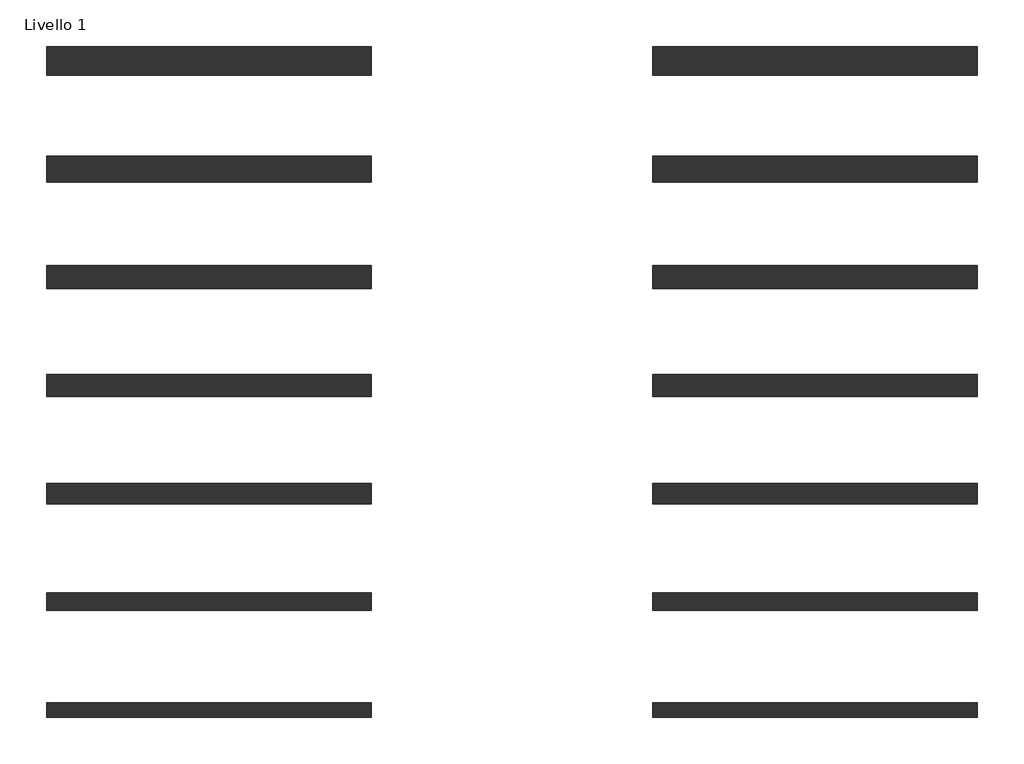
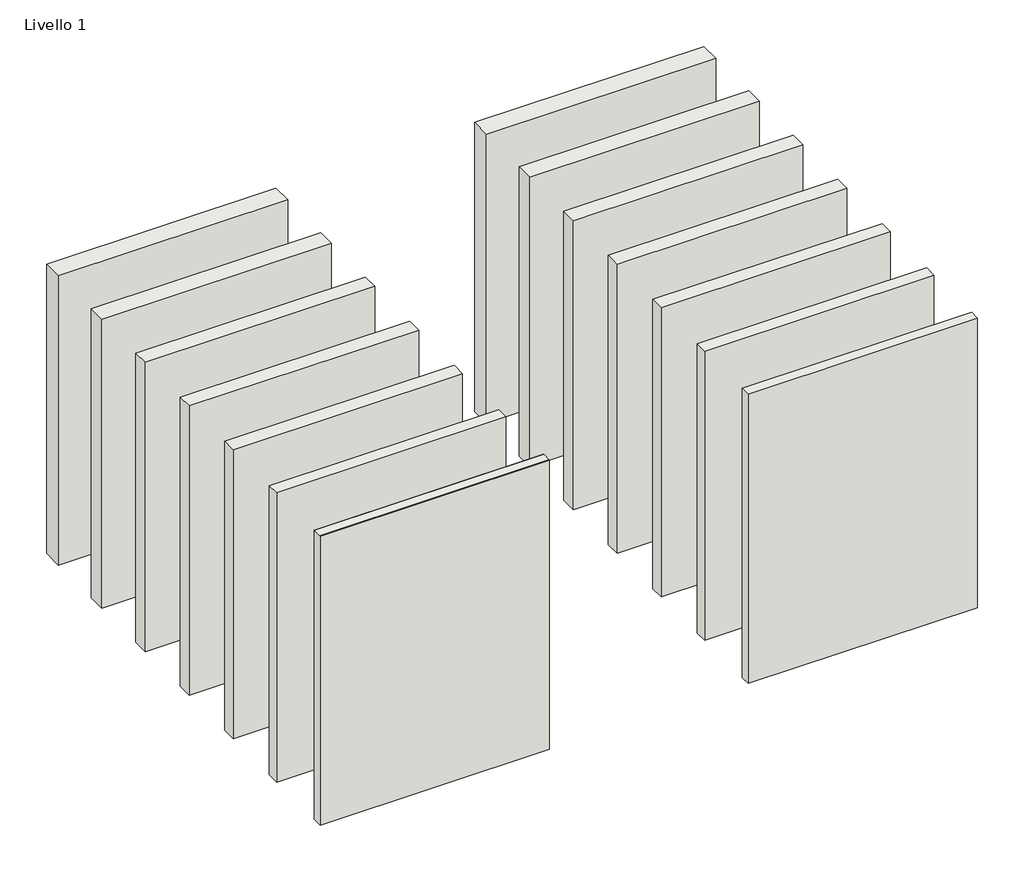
# One storey: 14 walls.
"""IFC4 building model written with IfcOpenShell, lengths in millimetres."""

from ifc_helpers import new_model, si_unit, frame, origin, origin_with_axes, place, context, project, spatial, polyline, outline, extrude, element, save

model = new_model("IFC4")

# Units and contexts
model_context = context("Model", 3, world=origin())
ifc_project = project(units=[si_unit("LENGTHUNIT", "METRE", prefix="MILLI")], contexts=[model_context])

# Site, building, storey
site = spatial("IfcSite", under=ifc_project)
building = spatial("IfcBuilding", under=site)
storey = spatial("IfcBuildingStorey", under=building, Name="Livello 1", Elevation=0.0)

# Walls
placement = place(None, origin())
element("IfcWall", 1, ObjectType="Sistema GASBETON Evolution+ IDRO sp. 529 mm per tamponatura", at=placement, inside=storey, context=model_context, shape_type="SweptSolid", body=[
    extrude(outline(polyline([(-8530.3988811, 8911.2412499), (-2530.3988811, 8911.2412499), (-2530.3988811, 8382.2412499), (-8530.3988811, 8382.2412499), (-8530.3988811, 8911.2412499)])), origin_with_axes(), (0.0, 0.0, 1.0), 8000.0),
])
element("IfcWall", 2, ObjectType="Sistema GASBETON Evolution sp. 479 mm per tamponatura", at=placement, inside=storey, context=model_context, shape_type="SweptSolid", body=[
    extrude(outline(polyline([(-8530.3988811, 6886.2412499), (-2530.3988811, 6886.2412499), (-2530.3988811, 6407.2412499), (-8530.3988811, 6407.2412499), (-8530.3988811, 6886.2412499)])), origin_with_axes(), (0.0, 0.0, 1.0), 8000.0),
])
element("IfcWall", 3, ObjectType="Sistema GASBETON Evolution sp. 429 mm per tamponatura", at=placement, inside=storey, context=model_context, shape_type="SweptSolid", body=[
    extrude(outline(polyline([(-8530.3988811, 4861.2412499), (-2530.3988811, 4861.2412499), (-2530.3988811, 4432.2412499), (-8530.3988811, 4432.2412499), (-8530.3988811, 4861.2412499)])), origin_with_axes(), (0.0, 0.0, 1.0), 8000.0),
])
element("IfcWall", 4, ObjectType="Sistema GASBETON Evolution sp. 404 mm per tamponatura", at=placement, inside=storey, context=model_context, shape_type="SweptSolid", body=[
    extrude(outline(polyline([(-8530.3988811, 2848.7412499), (-2530.3988811, 2848.7412499), (-2530.3988811, 2444.7412499), (-8530.3988811, 2444.7412499), (-8530.3988811, 2848.7412499)])), origin_with_axes(), (0.0, 0.0, 1.0), 8000.0),
])
element("IfcWall", 5, ObjectType="Sistema GASBETON Evolution sp. 379 mm per tamponatura", at=placement, inside=storey, context=model_context, shape_type="SweptSolid", body=[
    extrude(outline(polyline([(-8530.3988811, 836.2412499), (-2530.3988811, 836.2412499), (-2530.3988811, 457.2412499), (-8530.3988811, 457.2412499), (-8530.3988811, 836.2412499)])), origin_with_axes(), (0.0, 0.0, 1.0), 8000.0),
])
element("IfcWall", 6, ObjectType="Sistema GASBETON Evolution sp. 329 mm per tamponatura", at=placement, inside=storey, context=model_context, shape_type="SweptSolid", body=[
    extrude(outline(polyline([(-8530.3988811, -1188.7587501), (-2530.3988811, -1188.7587501), (-2530.3988811, -1517.7587501), (-8530.3988811, -1517.7587501), (-8530.3988811, -1188.7587501)])), origin_with_axes(), (0.0, 0.0, 1.0), 8000.0),
])
element("IfcWall", 7, ObjectType="Sistema GASBETON Evolution sp. 269 mm per tamponatura", at=placement, inside=storey, context=model_context, shape_type="SweptSolid", body=[
    extrude(outline(polyline([(-3218.7587501, 8000.0), (-3218.7587501, 0.0), (-3225.7587501, 0.0), (-3465.7587501, 0.0), (-3487.7587501, 0.0), (-3487.7587501, 8000.0), (-3465.7587501, 8000.0), (-3225.7587501, 8000.0), (-3218.7587501, 8000.0)])), frame((-8530.3988811, 0.0, 0.0), z_axis=(1.0, 0.0, 0.0), x_axis=(0.0, 1.0, 0.0)), (0.0, 0.0, 1.0), 6000.0),
])
element("IfcWall", 8, ObjectType="Sistema GASBETON Evolution+ IDRO sp. 269 mm per tamponatura", at=placement, inside=storey, context=model_context, shape_type="SweptSolid", body=[
    extrude(outline(polyline([(8669.6011189, -3487.7587501), (2669.6011189, -3487.7587501), (2669.6011189, -3218.7587501), (8669.6011189, -3218.7587501), (8669.6011189, -3487.7587501)])), origin_with_axes(), (0.0, 0.0, 1.0), 8000.0),
])
element("IfcWall", 9, ObjectType="Sistema GASBETON Evolution+ IDRO sp. 529 mm per tamponatura", at=placement, inside=storey, context=model_context, shape_type="SweptSolid", body=[
    extrude(outline(polyline([(2669.6011189, 8911.2412499), (8669.6011189, 8911.2412499), (8669.6011189, 8382.2412499), (2669.6011189, 8382.2412499), (2669.6011189, 8911.2412499)])), origin_with_axes(), (0.0, 0.0, 1.0), 8000.0),
])
element("IfcWall", 10, ObjectType="Sistema GASBETON Evolution+ IDRO sp. 479 mm per tamponatura", at=placement, inside=storey, context=model_context, shape_type="SweptSolid", body=[
    extrude(outline(polyline([(2669.6011189, 6886.2412499), (8669.6011189, 6886.2412499), (8669.6011189, 6407.2412499), (2669.6011189, 6407.2412499), (2669.6011189, 6886.2412499)])), origin_with_axes(), (0.0, 0.0, 1.0), 8000.0),
])
element("IfcWall", 11, ObjectType="Sistema GASBETON Evolution+ IDRO sp. 429 mm per tamponatura", at=placement, inside=storey, context=model_context, shape_type="SweptSolid", body=[
    extrude(outline(polyline([(2669.6011189, 4861.2412499), (8669.6011189, 4861.2412499), (8669.6011189, 4432.2412499), (2669.6011189, 4432.2412499), (2669.6011189, 4861.2412499)])), origin_with_axes(), (0.0, 0.0, 1.0), 8000.0),
])
element("IfcWall", 12, ObjectType="Sistema GASBETON Evolution+ IDRO sp. 404 mm per tamponatura", at=placement, inside=storey, context=model_context, shape_type="SweptSolid", body=[
    extrude(outline(polyline([(2669.6011189, 2848.7412499), (8669.6011189, 2848.7412499), (8669.6011189, 2444.7412499), (2669.6011189, 2444.7412499), (2669.6011189, 2848.7412499)])), origin_with_axes(), (0.0, 0.0, 1.0), 8000.0),
])
element("IfcWall", 13, ObjectType="Sistema GASBETON Evolution+ IDRO sp. 379 mm per tamponatura", at=placement, inside=storey, context=model_context, shape_type="SweptSolid", body=[
    extrude(outline(polyline([(2669.6011189, 836.2412499), (8669.6011189, 836.2412499), (8669.6011189, 457.2412499), (2669.6011189, 457.2412499), (2669.6011189, 836.2412499)])), origin_with_axes(), (0.0, 0.0, 1.0), 8000.0),
])
element("IfcWall", 14, ObjectType="Sistema GASBETON Evolution+ IDRO sp. 329 mm per tamponatura", at=placement, inside=storey, context=model_context, shape_type="SweptSolid", body=[
    extrude(outline(polyline([(2669.6011189, -1188.7587501), (8669.6011189, -1188.7587501), (8669.6011189, -1517.7587501), (2669.6011189, -1517.7587501), (2669.6011189, -1188.7587501)])), origin_with_axes(), (0.0, 0.0, 1.0), 8000.0),
])

save(model, "model.ifc")
